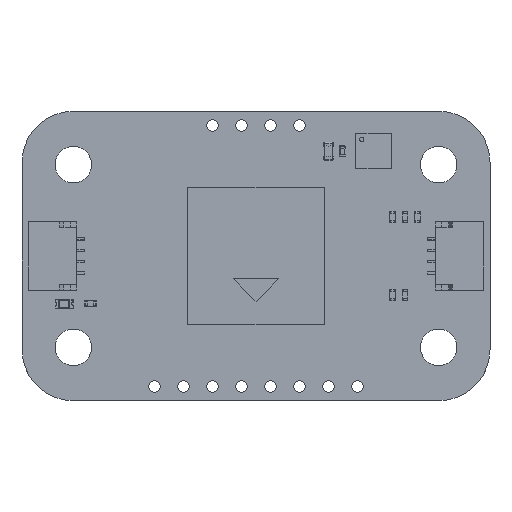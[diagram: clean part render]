
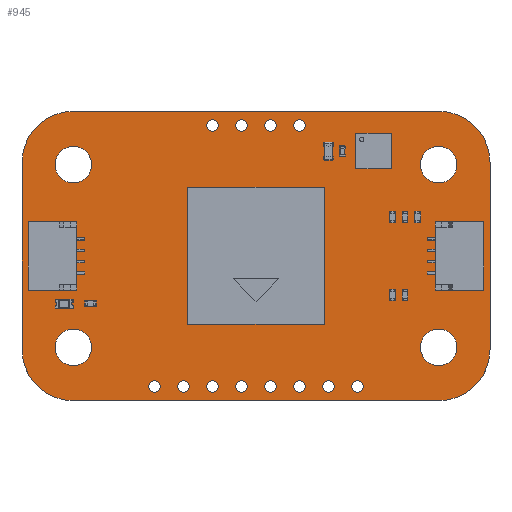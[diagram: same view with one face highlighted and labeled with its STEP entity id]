
A CAD part, top view. The second image highlights one B-rep face of the part: STEP entity #945.
In plain terms, the highlighted planar face has unit normal (0, 0, 1).
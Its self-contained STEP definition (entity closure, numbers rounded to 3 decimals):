
#104 = VERTEX_POINT('',#105);
#105 = CARTESIAN_POINT('',(0.,4.5,1.606));
#111 = EDGE_CURVE('',#104,#112,#114,.T.);
#112 = VERTEX_POINT('',#113);
#113 = CARTESIAN_POINT('',(4.5,0.,1.606));
#114 = CIRCLE('',#115,4.5);
#115 = AXIS2_PLACEMENT_3D('',#116,#117,#118);
#116 = CARTESIAN_POINT('',(4.5,4.5,1.606));
#117 = DIRECTION('',(0.,0.,1.));
#118 = DIRECTION('',(-1.,0.,0.));
#144 = EDGE_CURVE('',#112,#145,#147,.T.);
#145 = VERTEX_POINT('',#146);
#146 = CARTESIAN_POINT('',(36.5,0.,1.606));
#147 = LINE('',#148,#149);
#148 = CARTESIAN_POINT('',(4.5,0.,1.606));
#149 = VECTOR('',#150,1.);
#150 = DIRECTION('',(1.,0.,0.));
#175 = EDGE_CURVE('',#145,#176,#178,.T.);
#176 = VERTEX_POINT('',#177);
#177 = CARTESIAN_POINT('',(41.,4.5,1.606));
#178 = CIRCLE('',#179,4.5);
#179 = AXIS2_PLACEMENT_3D('',#180,#181,#182);
#180 = CARTESIAN_POINT('',(36.5,4.5,1.606));
#181 = DIRECTION('',(0.,0.,1.));
#182 = DIRECTION('',(0.,-1.,0.));
#208 = EDGE_CURVE('',#176,#209,#211,.T.);
#209 = VERTEX_POINT('',#210);
#210 = CARTESIAN_POINT('',(41.,20.86,1.606));
#211 = LINE('',#212,#213);
#212 = CARTESIAN_POINT('',(41.,4.5,1.606));
#213 = VECTOR('',#214,1.);
#214 = DIRECTION('',(0.,1.,0.));
#239 = EDGE_CURVE('',#209,#240,#242,.T.);
#240 = VERTEX_POINT('',#241);
#241 = CARTESIAN_POINT('',(36.5,25.36,1.606));
#242 = CIRCLE('',#243,4.5);
#243 = AXIS2_PLACEMENT_3D('',#244,#245,#246);
#244 = CARTESIAN_POINT('',(36.5,20.86,1.606));
#245 = DIRECTION('',(0.,0.,1.));
#246 = DIRECTION('',(1.,0.,0.));
#272 = EDGE_CURVE('',#240,#273,#275,.T.);
#273 = VERTEX_POINT('',#274);
#274 = CARTESIAN_POINT('',(4.5,25.36,1.606));
#275 = LINE('',#276,#277);
#276 = CARTESIAN_POINT('',(36.5,25.36,1.606));
#277 = VECTOR('',#278,1.);
#278 = DIRECTION('',(-1.,0.,0.));
#303 = EDGE_CURVE('',#273,#304,#306,.T.);
#304 = VERTEX_POINT('',#305);
#305 = CARTESIAN_POINT('',(0.,20.86,1.606));
#306 = CIRCLE('',#307,4.5);
#307 = AXIS2_PLACEMENT_3D('',#308,#309,#310);
#308 = CARTESIAN_POINT('',(4.5,20.86,1.606));
#309 = DIRECTION('',(0.,0.,1.));
#310 = DIRECTION('',(0.,1.,-0.));
#336 = EDGE_CURVE('',#304,#104,#337,.T.);
#337 = LINE('',#338,#339);
#338 = CARTESIAN_POINT('',(0.,20.86,1.606));
#339 = VECTOR('',#340,1.);
#340 = DIRECTION('',(0.,-1.,0.));
#360 = VERTEX_POINT('',#361);
#361 = CARTESIAN_POINT('',(14.65,1.25,1.606));
#367 = EDGE_CURVE('',#360,#360,#368,.T.);
#368 = CIRCLE('',#369,0.5);
#369 = AXIS2_PLACEMENT_3D('',#370,#371,#372);
#370 = CARTESIAN_POINT('',(14.15,1.25,1.606));
#371 = DIRECTION('',(0.,0.,1.));
#372 = DIRECTION('',(1.,0.,-0.));
#393 = VERTEX_POINT('',#394);
#394 = CARTESIAN_POINT('',(12.11,1.25,1.606));
#400 = EDGE_CURVE('',#393,#393,#401,.T.);
#401 = CIRCLE('',#402,0.5);
#402 = AXIS2_PLACEMENT_3D('',#403,#404,#405);
#403 = CARTESIAN_POINT('',(11.61,1.25,1.606));
#404 = DIRECTION('',(0.,0.,1.));
#405 = DIRECTION('',(1.,0.,-0.));
#426 = VERTEX_POINT('',#427);
#427 = CARTESIAN_POINT('',(19.73,1.25,1.606));
#433 = EDGE_CURVE('',#426,#426,#434,.T.);
#434 = CIRCLE('',#435,0.5);
#435 = AXIS2_PLACEMENT_3D('',#436,#437,#438);
#436 = CARTESIAN_POINT('',(19.23,1.25,1.606));
#437 = DIRECTION('',(0.,0.,1.));
#438 = DIRECTION('',(1.,0.,-0.));
#459 = VERTEX_POINT('',#460);
#460 = CARTESIAN_POINT('',(17.19,1.25,1.606));
#466 = EDGE_CURVE('',#459,#459,#467,.T.);
#467 = CIRCLE('',#468,0.5);
#468 = AXIS2_PLACEMENT_3D('',#469,#470,#471);
#469 = CARTESIAN_POINT('',(16.69,1.25,1.606));
#470 = DIRECTION('',(0.,0.,1.));
#471 = DIRECTION('',(1.,0.,-0.));
#492 = VERTEX_POINT('',#493);
#493 = CARTESIAN_POINT('',(6.1,4.68,1.606));
#499 = EDGE_CURVE('',#492,#492,#500,.T.);
#500 = CIRCLE('',#501,1.6);
#501 = AXIS2_PLACEMENT_3D('',#502,#503,#504);
#502 = CARTESIAN_POINT('',(4.5,4.68,1.606));
#503 = DIRECTION('',(0.,0.,1.));
#504 = DIRECTION('',(1.,0.,-0.));
#525 = VERTEX_POINT('',#526);
#526 = CARTESIAN_POINT('',(6.1,20.68,1.606));
#532 = EDGE_CURVE('',#525,#525,#533,.T.);
#533 = CIRCLE('',#534,1.6);
#534 = AXIS2_PLACEMENT_3D('',#535,#536,#537);
#535 = CARTESIAN_POINT('',(4.5,20.68,1.606));
#536 = DIRECTION('',(0.,0.,1.));
#537 = DIRECTION('',(1.,0.,-0.));
#558 = VERTEX_POINT('',#559);
#559 = CARTESIAN_POINT('',(19.73,24.11,1.606));
#565 = EDGE_CURVE('',#558,#558,#566,.T.);
#566 = CIRCLE('',#567,0.5);
#567 = AXIS2_PLACEMENT_3D('',#568,#569,#570);
#568 = CARTESIAN_POINT('',(19.23,24.11,1.606));
#569 = DIRECTION('',(0.,0.,1.));
#570 = DIRECTION('',(1.,0.,-0.));
#591 = VERTEX_POINT('',#592);
#592 = CARTESIAN_POINT('',(17.19,24.11,1.606));
#598 = EDGE_CURVE('',#591,#591,#599,.T.);
#599 = CIRCLE('',#600,0.5);
#600 = AXIS2_PLACEMENT_3D('',#601,#602,#603);
#601 = CARTESIAN_POINT('',(16.69,24.11,1.606));
#602 = DIRECTION('',(0.,0.,1.));
#603 = DIRECTION('',(1.,0.,-0.));
#624 = VERTEX_POINT('',#625);
#625 = CARTESIAN_POINT('',(24.81,1.25,1.606));
#631 = EDGE_CURVE('',#624,#624,#632,.T.);
#632 = CIRCLE('',#633,0.5);
#633 = AXIS2_PLACEMENT_3D('',#634,#635,#636);
#634 = CARTESIAN_POINT('',(24.31,1.25,1.606));
#635 = DIRECTION('',(0.,0.,1.));
#636 = DIRECTION('',(1.,0.,-0.));
#657 = VERTEX_POINT('',#658);
#658 = CARTESIAN_POINT('',(22.27,1.25,1.606));
#664 = EDGE_CURVE('',#657,#657,#665,.T.);
#665 = CIRCLE('',#666,0.5);
#666 = AXIS2_PLACEMENT_3D('',#667,#668,#669);
#667 = CARTESIAN_POINT('',(21.77,1.25,1.606));
#668 = DIRECTION('',(0.,0.,1.));
#669 = DIRECTION('',(1.,0.,-0.));
#690 = VERTEX_POINT('',#691);
#691 = CARTESIAN_POINT('',(29.89,1.25,1.606));
#697 = EDGE_CURVE('',#690,#690,#698,.T.);
#698 = CIRCLE('',#699,0.5);
#699 = AXIS2_PLACEMENT_3D('',#700,#701,#702);
#700 = CARTESIAN_POINT('',(29.39,1.25,1.606));
#701 = DIRECTION('',(0.,0.,1.));
#702 = DIRECTION('',(1.,0.,-0.));
#723 = VERTEX_POINT('',#724);
#724 = CARTESIAN_POINT('',(27.35,1.25,1.606));
#730 = EDGE_CURVE('',#723,#723,#731,.T.);
#731 = CIRCLE('',#732,0.5);
#732 = AXIS2_PLACEMENT_3D('',#733,#734,#735);
#733 = CARTESIAN_POINT('',(26.85,1.25,1.606));
#734 = DIRECTION('',(0.,0.,1.));
#735 = DIRECTION('',(1.,0.,-0.));
#756 = VERTEX_POINT('',#757);
#757 = CARTESIAN_POINT('',(24.81,24.11,1.606));
#763 = EDGE_CURVE('',#756,#756,#764,.T.);
#764 = CIRCLE('',#765,0.5);
#765 = AXIS2_PLACEMENT_3D('',#766,#767,#768);
#766 = CARTESIAN_POINT('',(24.31,24.11,1.606));
#767 = DIRECTION('',(0.,0.,1.));
#768 = DIRECTION('',(1.,0.,-0.));
#789 = VERTEX_POINT('',#790);
#790 = CARTESIAN_POINT('',(22.27,24.11,1.606));
#796 = EDGE_CURVE('',#789,#789,#797,.T.);
#797 = CIRCLE('',#798,0.5);
#798 = AXIS2_PLACEMENT_3D('',#799,#800,#801);
#799 = CARTESIAN_POINT('',(21.77,24.11,1.606));
#800 = DIRECTION('',(0.,0.,1.));
#801 = DIRECTION('',(1.,0.,-0.));
#822 = VERTEX_POINT('',#823);
#823 = CARTESIAN_POINT('',(38.1,4.68,1.606));
#829 = EDGE_CURVE('',#822,#822,#830,.T.);
#830 = CIRCLE('',#831,1.6);
#831 = AXIS2_PLACEMENT_3D('',#832,#833,#834);
#832 = CARTESIAN_POINT('',(36.5,4.68,1.606));
#833 = DIRECTION('',(0.,0.,1.));
#834 = DIRECTION('',(1.,0.,-0.));
#855 = VERTEX_POINT('',#856);
#856 = CARTESIAN_POINT('',(38.1,20.68,1.606));
#862 = EDGE_CURVE('',#855,#855,#863,.T.);
#863 = CIRCLE('',#864,1.6);
#864 = AXIS2_PLACEMENT_3D('',#865,#866,#867);
#865 = CARTESIAN_POINT('',(36.5,20.68,1.606));
#866 = DIRECTION('',(0.,0.,1.));
#867 = DIRECTION('',(1.,0.,-0.));
#945 = ADVANCED_FACE('',(#946,#956,#959,#962,#965,#968,#971,#974,#977,
    #980,#983,#986,#989,#992,#995,#998,#1001),#1004,.T.);
#946 = FACE_BOUND('',#947,.T.);
#947 = EDGE_LOOP('',(#948,#949,#950,#951,#952,#953,#954,#955));
#948 = ORIENTED_EDGE('',*,*,#111,.T.);
#949 = ORIENTED_EDGE('',*,*,#144,.T.);
#950 = ORIENTED_EDGE('',*,*,#175,.T.);
#951 = ORIENTED_EDGE('',*,*,#208,.T.);
#952 = ORIENTED_EDGE('',*,*,#239,.T.);
#953 = ORIENTED_EDGE('',*,*,#272,.T.);
#954 = ORIENTED_EDGE('',*,*,#303,.T.);
#955 = ORIENTED_EDGE('',*,*,#336,.T.);
#956 = FACE_BOUND('',#957,.T.);
#957 = EDGE_LOOP('',(#958));
#958 = ORIENTED_EDGE('',*,*,#367,.F.);
#959 = FACE_BOUND('',#960,.T.);
#960 = EDGE_LOOP('',(#961));
#961 = ORIENTED_EDGE('',*,*,#400,.F.);
#962 = FACE_BOUND('',#963,.T.);
#963 = EDGE_LOOP('',(#964));
#964 = ORIENTED_EDGE('',*,*,#433,.F.);
#965 = FACE_BOUND('',#966,.T.);
#966 = EDGE_LOOP('',(#967));
#967 = ORIENTED_EDGE('',*,*,#466,.F.);
#968 = FACE_BOUND('',#969,.T.);
#969 = EDGE_LOOP('',(#970));
#970 = ORIENTED_EDGE('',*,*,#499,.F.);
#971 = FACE_BOUND('',#972,.T.);
#972 = EDGE_LOOP('',(#973));
#973 = ORIENTED_EDGE('',*,*,#532,.F.);
#974 = FACE_BOUND('',#975,.T.);
#975 = EDGE_LOOP('',(#976));
#976 = ORIENTED_EDGE('',*,*,#565,.F.);
#977 = FACE_BOUND('',#978,.T.);
#978 = EDGE_LOOP('',(#979));
#979 = ORIENTED_EDGE('',*,*,#598,.F.);
#980 = FACE_BOUND('',#981,.T.);
#981 = EDGE_LOOP('',(#982));
#982 = ORIENTED_EDGE('',*,*,#631,.F.);
#983 = FACE_BOUND('',#984,.T.);
#984 = EDGE_LOOP('',(#985));
#985 = ORIENTED_EDGE('',*,*,#664,.F.);
#986 = FACE_BOUND('',#987,.T.);
#987 = EDGE_LOOP('',(#988));
#988 = ORIENTED_EDGE('',*,*,#697,.F.);
#989 = FACE_BOUND('',#990,.T.);
#990 = EDGE_LOOP('',(#991));
#991 = ORIENTED_EDGE('',*,*,#730,.F.);
#992 = FACE_BOUND('',#993,.T.);
#993 = EDGE_LOOP('',(#994));
#994 = ORIENTED_EDGE('',*,*,#763,.F.);
#995 = FACE_BOUND('',#996,.T.);
#996 = EDGE_LOOP('',(#997));
#997 = ORIENTED_EDGE('',*,*,#796,.F.);
#998 = FACE_BOUND('',#999,.T.);
#999 = EDGE_LOOP('',(#1000));
#1000 = ORIENTED_EDGE('',*,*,#829,.F.);
#1001 = FACE_BOUND('',#1002,.T.);
#1002 = EDGE_LOOP('',(#1003));
#1003 = ORIENTED_EDGE('',*,*,#862,.F.);
#1004 = PLANE('',#1005);
#1005 = AXIS2_PLACEMENT_3D('',#1006,#1007,#1008);
#1006 = CARTESIAN_POINT('',(20.5,12.68,1.606));
#1007 = DIRECTION('',(0.,0.,1.));
#1008 = DIRECTION('',(1.,0.,-0.));
